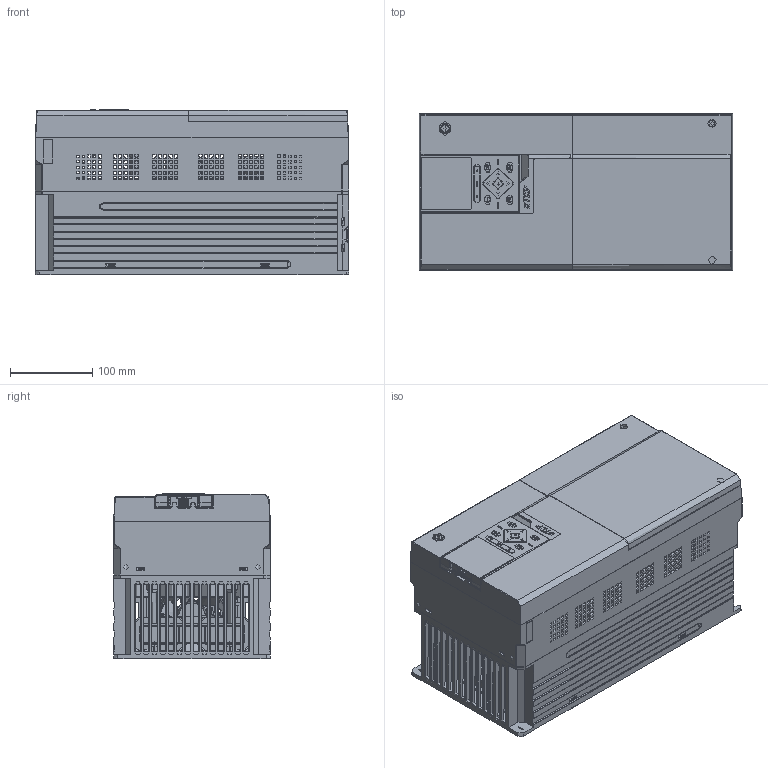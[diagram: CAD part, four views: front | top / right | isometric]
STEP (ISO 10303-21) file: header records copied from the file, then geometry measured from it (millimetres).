
FILE_DESCRIPTION(('STEP AP203'), '1');
FILE_NAME('F3', '', ('UNSPECIFIED'), ('UNSPECIFIED'), 'C3D Converter', 'C3D Toolkit', '');
FILE_SCHEMA(('CONFIG_CONTROL_DESIGN'));
Length unit declared in the file: millimetre
Products named in the file (1): INPRIME-G18.5-4BF
Bounding box: 380 x 190 x 200.8 mm (x, y, z)
Topology: 10 solids, 670 shells, 4704 faces, 20186 edges, 15860 vertices
Faces by surface type: plane 3203, cylinder 724, bspline 351, torus 224, cone 189, sphere 13
Full cylindrical faces by diameter (mm): 0.9 x2, 1.4 x4, 3.3 x4, 4.2 x4, 4.5 x2, 5.2 x2, 6 x2, 7.05 x1, 7.2 x2, 8 x2, 8.5 x2, 9 x1, 36 x1, 40 x6, 84 x1, 91.6 x1
Entity records: 281523 total; most frequent: CARTESIAN_POINT 83955, DIRECTION 28753, ORIENTED_EDGE 27746, EDGE_CURVE 20091, VERTEX_POINT 15890, LINE 14199, VECTOR 14199, AXIS2_PLACEMENT_3D 7277
